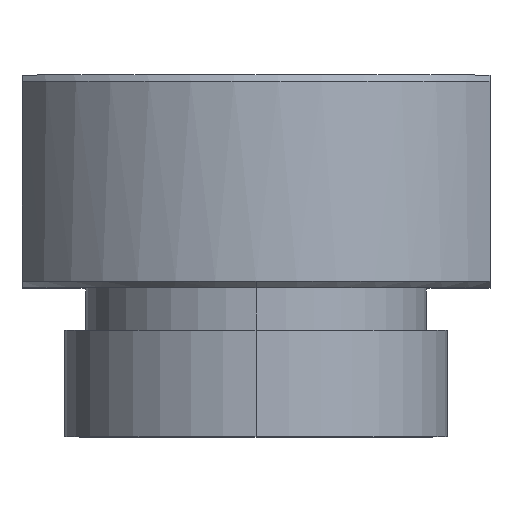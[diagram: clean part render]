
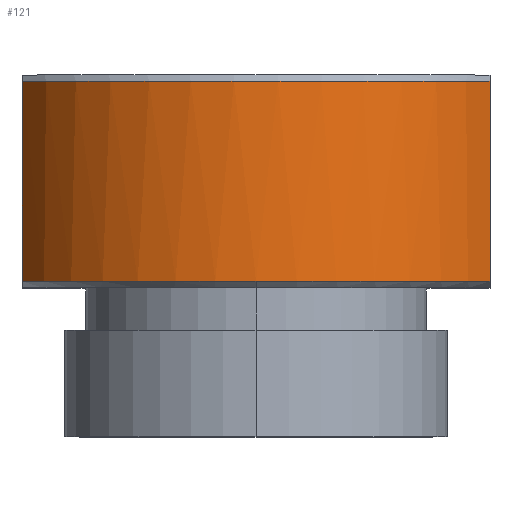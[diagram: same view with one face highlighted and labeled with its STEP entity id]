
A CAD part, top view. The second image highlights one B-rep face of the part: STEP entity #121.
In plain terms, the highlighted cylindrical face has radius 12.5 mm (diameter 25 mm), a partial arc.
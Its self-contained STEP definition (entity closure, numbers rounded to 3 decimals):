
#1 = CARTESIAN_POINT ( 'NONE',  ( 11., 9.7, 5.937 ) ) ;
#48 = CYLINDRICAL_SURFACE ( 'NONE', #71, 12.5 ) ;
#71 = AXIS2_PLACEMENT_3D ( 'NONE', #189, #126, #409 ) ;
#74 = VECTOR ( 'NONE', #663, 1000. ) ;
#84 = CARTESIAN_POINT ( 'NONE',  ( -11., 9.7, 5.937 ) ) ;
#117 = CIRCLE ( 'NONE', #307, 12.5 ) ;
#121 = ADVANCED_FACE ( 'NONE', ( #657 ), #48, .T. ) ;
#125 = ORIENTED_EDGE ( 'NONE', *, *, #856, .T. ) ;
#126 = DIRECTION ( 'NONE',  ( 0., -1., 0. ) ) ;
#138 = LINE ( 'NONE', #564, #292 ) ;
#146 = AXIS2_PLACEMENT_3D ( 'NONE', #966, #420, #293 ) ;
#167 = EDGE_CURVE ( 'NONE', #598, #881, #543, .T. ) ;
#185 = EDGE_CURVE ( 'NONE', #392, #283, #138, .T. ) ;
#189 = CARTESIAN_POINT ( 'NONE',  ( 0., 10., 0. ) ) ;
#207 = DIRECTION ( 'NONE',  ( 0., 1., 0. ) ) ;
#244 = EDGE_CURVE ( 'NONE', #881, #283, #797, .T. ) ;
#266 = CARTESIAN_POINT ( 'NONE',  ( 0., 0.3, 0. ) ) ;
#283 = VERTEX_POINT ( 'NONE', #729 ) ;
#292 = VECTOR ( 'NONE', #424, 1000. ) ;
#293 = DIRECTION ( 'NONE',  ( 0., 0., 1. ) ) ;
#307 = AXIS2_PLACEMENT_3D ( 'NONE', #675, #530, #770 ) ;
#392 = VERTEX_POINT ( 'NONE', #1 ) ;
#409 = DIRECTION ( 'NONE',  ( 0., 0., -1. ) ) ;
#420 = DIRECTION ( 'NONE',  ( 0., 1., 0. ) ) ;
#424 = DIRECTION ( 'NONE',  ( 0., -1., 0. ) ) ;
#441 = AXIS2_PLACEMENT_3D ( 'NONE', #266, #207, #495 ) ;
#495 = DIRECTION ( 'NONE',  ( 0., 0., 1. ) ) ;
#530 = DIRECTION ( 'NONE',  ( 0., -1., 0. ) ) ;
#543 = CIRCLE ( 'NONE', #441, 12.5 ) ;
#558 = ORIENTED_EDGE ( 'NONE', *, *, #185, .F. ) ;
#564 = CARTESIAN_POINT ( 'NONE',  ( 11., 10., 5.937 ) ) ;
#598 = VERTEX_POINT ( 'NONE', #742 ) ;
#657 = FACE_OUTER_BOUND ( 'NONE', #932, .T. ) ;
#663 = DIRECTION ( 'NONE',  ( 0., 1., 0. ) ) ;
#666 = ORIENTED_EDGE ( 'NONE', *, *, #167, .T. ) ;
#675 = CARTESIAN_POINT ( 'NONE',  ( 0., 9.7, 0. ) ) ;
#677 = CARTESIAN_POINT ( 'NONE',  ( 0., 0.3, 12.5 ) ) ;
#687 = EDGE_CURVE ( 'NONE', #598, #758, #715, .T. ) ;
#715 = LINE ( 'NONE', #741, #74 ) ;
#729 = CARTESIAN_POINT ( 'NONE',  ( 11., 0.3, 5.937 ) ) ;
#741 = CARTESIAN_POINT ( 'NONE',  ( -11., 10., 5.937 ) ) ;
#742 = CARTESIAN_POINT ( 'NONE',  ( -11., 0.3, 5.937 ) ) ;
#758 = VERTEX_POINT ( 'NONE', #84 ) ;
#761 = ORIENTED_EDGE ( 'NONE', *, *, #244, .T. ) ;
#770 = DIRECTION ( 'NONE',  ( 0., 0., 1. ) ) ;
#797 = CIRCLE ( 'NONE', #146, 12.5 ) ;
#856 = EDGE_CURVE ( 'NONE', #392, #758, #117, .T. ) ;
#881 = VERTEX_POINT ( 'NONE', #677 ) ;
#916 = ORIENTED_EDGE ( 'NONE', *, *, #687, .F. ) ;
#932 = EDGE_LOOP ( 'NONE', ( #916, #666, #761, #558, #125 ) ) ;
#966 = CARTESIAN_POINT ( 'NONE',  ( 0., 0.3, 0. ) ) ;
